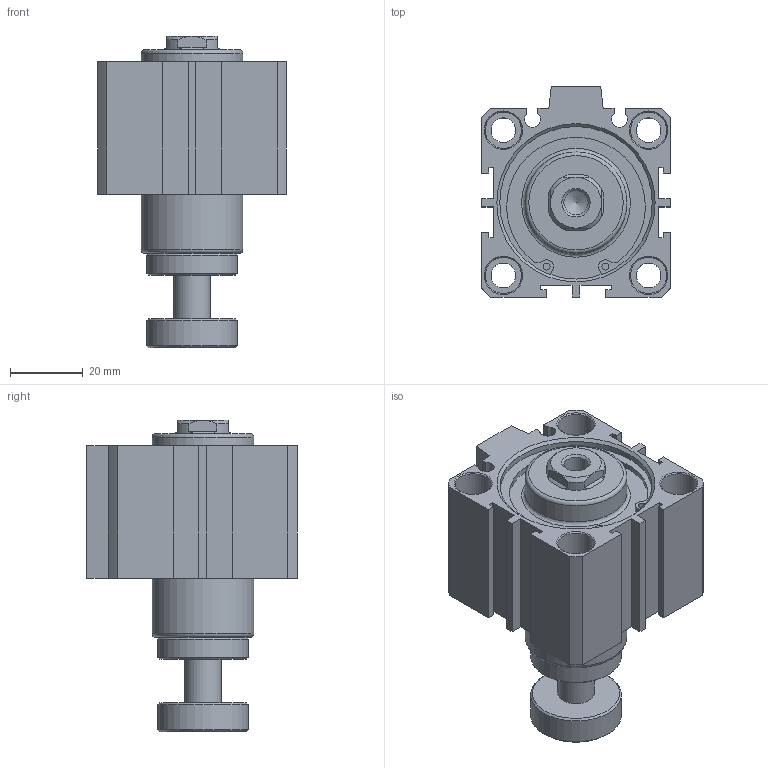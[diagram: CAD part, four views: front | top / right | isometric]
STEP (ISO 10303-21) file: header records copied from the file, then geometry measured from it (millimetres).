
FILE_DESCRIPTION((''),'2;1');
FILE_NAME('I:\3D電子目錄\氣缸\JDAR\JDAR\JDAR40\JDAR40x10.stp','2007-03-14T10:33:10',('662F206'),(''),'Autodesk Inventor 11','Autodesk Inventor 11','');
FILE_SCHEMA(('AUTOMOTIVE_DESIGN { 1 0 10303 214 1 1 1 1 }'));
Length unit declared in the file: millimetre
Products named in the file (3): JDAR40; R 形環 42
Assembly tree (3 placements, depth 2):
  JDAR40
    JDAR40
    R 形環 42  x2
Bounding box: 52 x 58 x 85.8 mm (x, y, z)
Volume: 99456.6 mm3; surface area: 28886.6 mm2
Topology: 3 solids, 3 shells, 172 faces, 405 edges, 263 vertices
Faces by surface type: plane 92, cylinder 51, cone 23, bspline 4, torus 2
Full cylindrical faces by diameter (mm): 1.9 x4, 2.2 x2, 6.8 x4, 10 x9, 25 x2, 28 x2, 42 x4, 44.5 x2
Entity records: 4475 total; most frequent: CARTESIAN_POINT 858, DIRECTION 758, ORIENTED_EDGE 634, EDGE_CURVE 317, AXIS2_PLACEMENT_3D 287, EDGE_LOOP 248, VERTEX_POINT 237, VECTOR 184
